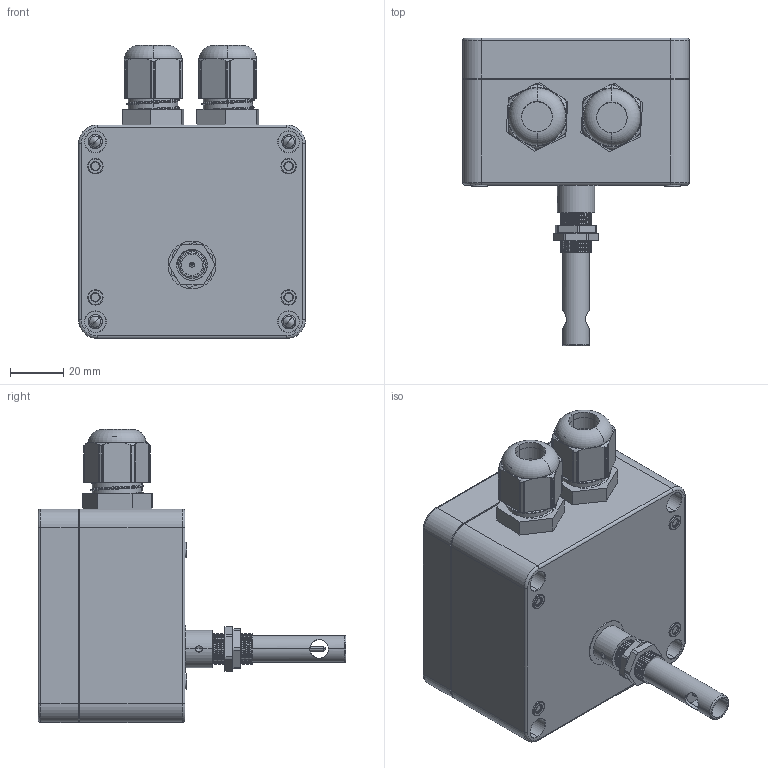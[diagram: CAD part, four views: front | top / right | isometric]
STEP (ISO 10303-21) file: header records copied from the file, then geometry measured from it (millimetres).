
FILE_DESCRIPTION (( 'STEP AP203' ), '1' );
FILE_NAME ('50MM... Assem1.STEP', '2023-01-02T17:55:26', ( '' ), ( '' ), 'SwSTEP 2.0', 'SolidWorks 2019', '' );
FILE_SCHEMA (( 'CONFIG_CONTROL_DESIGN' ));
Length unit declared in the file: millimetre
Products named in the file (6): PLUG.STEP; TUBE 50 MM LENTH - ....STEP; 50MM Assem1.STEP; Part2 screw.STEP; 50MM... Assem1; Part1.STEP
Assembly tree (9 placements, depth 3):
  50MM... Assem1
    50MM Assem1.STEP
      Part1.STEP
      Part2 screw.STEP  x4
      PLUG.STEP  x2
      TUBE 50 MM LENTH - ....STEP
Bounding box: 85 x 115.3 x 109.79 mm (x, y, z)
Volume: 329142.8 mm3; surface area: 85858.6 mm2
Topology: 18 solids, 19 shells, 885 faces, 2417 edges, 1579 vertices
Faces by surface type: cylinder 496, plane 296, torus 54, bspline 29, cone 10
Entity records: 27484 total; most frequent: CARTESIAN_POINT 15836, ORIENTED_EDGE 2470, DIRECTION 2141, EDGE_CURVE 1235, VERTEX_POINT 802, AXIS2_PLACEMENT_3D 798, LINE 545, VECTOR 545
